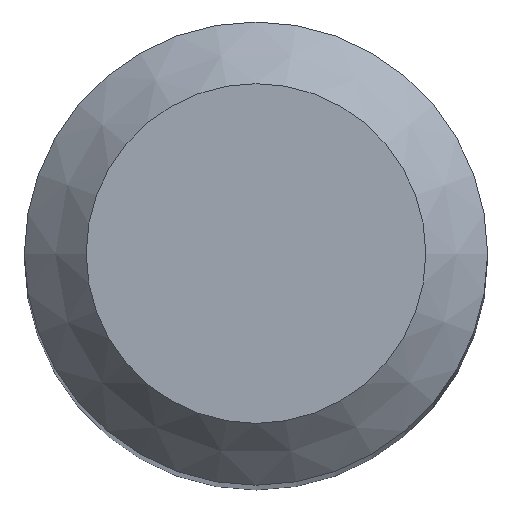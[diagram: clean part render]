
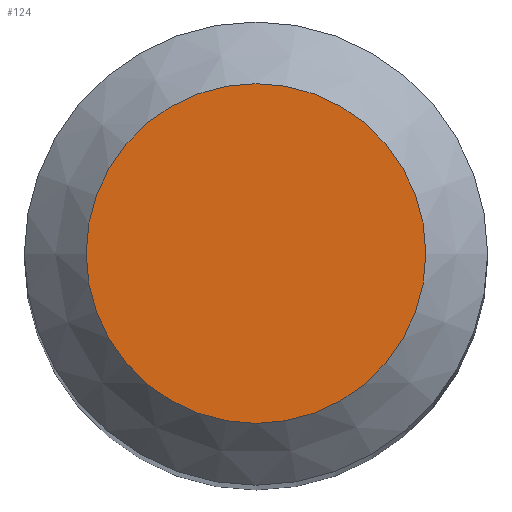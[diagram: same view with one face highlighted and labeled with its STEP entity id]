
A CAD part, top view. The second image highlights one B-rep face of the part: STEP entity #124.
In plain terms, the highlighted planar face has unit normal (0, 0, 1).
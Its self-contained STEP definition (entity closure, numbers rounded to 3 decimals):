
#108=CARTESIAN_POINT('',(2.2,0.0,80.0));
#109=DIRECTION('',(0.0,0.0,1.0));
#110=DIRECTION('',(1.0,0.0,0.0));
#111=AXIS2_PLACEMENT_3D('',#108,#109,#110);
#112=PLANE('',#111);
#113=CARTESIAN_POINT('',(-2.2,0.0,80.0));
#114=VERTEX_POINT('',#113);
#115=CARTESIAN_POINT('',(0.0,0.0,80.0));
#116=DIRECTION('',(0.0,0.0,-1.0));
#117=DIRECTION('',(-1.0,0.0,0.0));
#118=AXIS2_PLACEMENT_3D('',#115,#116,#117);
#119=CIRCLE('',#118,2.2);
#120=EDGE_CURVE('',#114,#114,#119,.T.);
#121=ORIENTED_EDGE('',*,*,#120,.F.);
#122=EDGE_LOOP('',(#121));
#123=FACE_OUTER_BOUND('',#122,.T.);
#124=ADVANCED_FACE('',(#123),#112,.T.);
